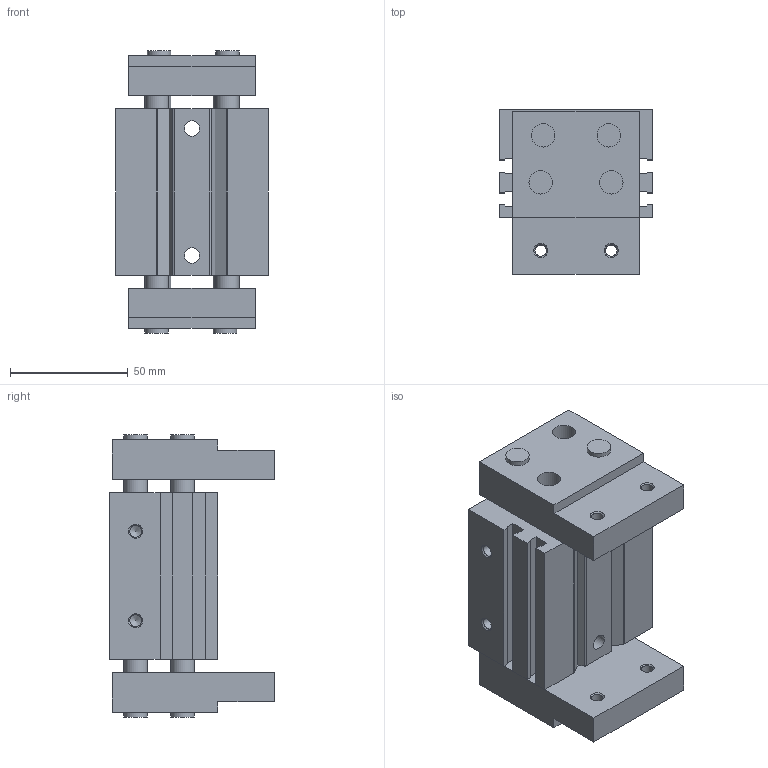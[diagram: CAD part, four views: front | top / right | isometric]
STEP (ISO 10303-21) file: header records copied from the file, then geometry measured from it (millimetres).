
FILE_DESCRIPTION( ( 'STEP AP214' ), '1' );
FILE_NAME( 'C:/Users/ashearer/Desktop/Mindman New CAD/Grippers/MCHX-20-40M_82_.stp', ' ', ( ' ' ), ( ' ' ), 'PSStep 15.0.47', 'PARTsolutions', ' ' );
FILE_SCHEMA( ( 'AUTOMOTIVE_DESIGN { 1 0 10303 214 1 1 1 1 }' ) );
Length unit declared in the file: millimetre
Products named in the file (3): MCHX-20-40M(82); _MCHX-20-40M_b; _MCHX-20-40M_f
Assembly tree (3 placements, depth 2):
  MCHX-20-40M(82)
    _MCHX-20-40M_b
    _MCHX-20-40M_f  x2
Bounding box: 65 x 70 x 120 mm (x, y, z)
Volume: 308712.2 mm3; surface area: 72854.9 mm2
Topology: 3 solids, 3 shells, 135 faces, 336 edges, 218 vertices
Faces by surface type: plane 73, cylinder 38, cone 24
Full cylindrical faces by diameter (mm): 4 x1, 4.134 x2, 4.917 x10, 6.6 x2, 10 x16, 24 x1
Entity records: 4036 total; most frequent: DIRECTION 530, CARTESIAN_POINT 523, ORIENTED_EDGE 456, EDGE_CURVE 228, AXIS2_PLACEMENT_3D 187, EDGE_LOOP 182, VERTEX_POINT 180, LINE 156
